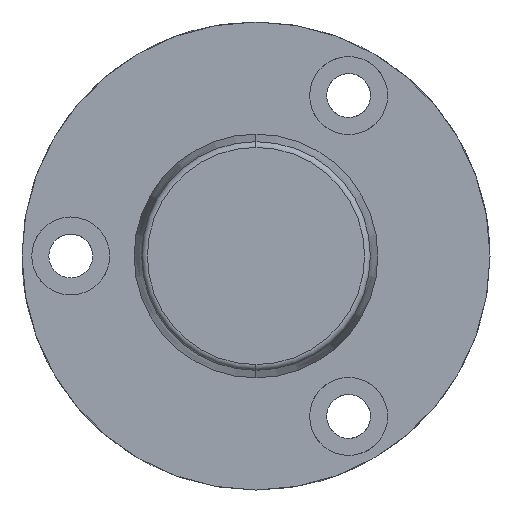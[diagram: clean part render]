
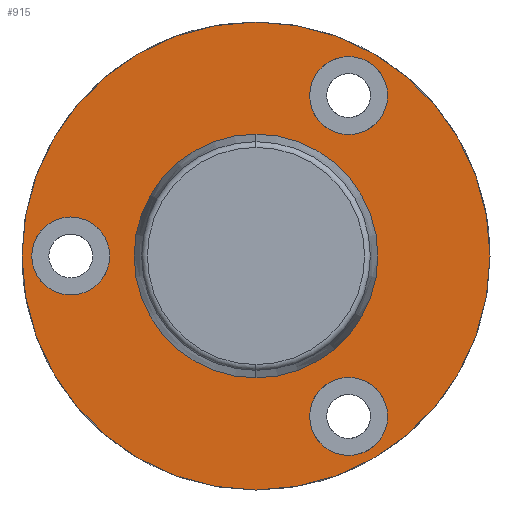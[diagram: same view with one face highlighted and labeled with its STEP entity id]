
A CAD part, left-side view. The second image highlights one B-rep face of the part: STEP entity #915.
In plain terms, the highlighted planar face has unit normal (-1, 0, 0).
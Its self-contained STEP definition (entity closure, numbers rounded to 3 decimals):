
#429=CARTESIAN_POINT('Vertex',(-8.,0.,-24.)) ;
#432=CARTESIAN_POINT('Axis2P3D Location',(-8.,0.,0.)) ;
#436=CARTESIAN_POINT('Vertex',(-8.,24.,0.)) ;
#439=CARTESIAN_POINT('Axis2P3D Location',(-8.,0.,0.)) ;
#443=CARTESIAN_POINT('Vertex',(-8.,0.,24.)) ;
#465=CARTESIAN_POINT('Axis2P3D Location',(-8.,0.,0.)) ;
#469=CARTESIAN_POINT('Vertex',(-8.,-24.,0.)) ;
#472=CARTESIAN_POINT('Axis2P3D Location',(-8.,0.,0.)) ;
#768=CARTESIAN_POINT('Axis2P3D Location',(-8.,11.,0.)) ;
#779=CARTESIAN_POINT('Axis2P3D Location',(-8.,19.,0.)) ;
#783=CARTESIAN_POINT('Vertex',(-8.,19.,4.)) ;
#785=CARTESIAN_POINT('Vertex',(-8.,23.,0.)) ;
#788=CARTESIAN_POINT('Axis2P3D Location',(-8.,19.,0.)) ;
#792=CARTESIAN_POINT('Vertex',(-8.,15.,0.)) ;
#795=CARTESIAN_POINT('Axis2P3D Location',(-8.,19.,0.)) ;
#799=CARTESIAN_POINT('Vertex',(-8.,19.,-4.)) ;
#802=CARTESIAN_POINT('Axis2P3D Location',(-8.,19.,0.)) ;
#813=CARTESIAN_POINT('Axis2P3D Location',(-8.,-9.5,16.454)) ;
#817=CARTESIAN_POINT('Vertex',(-8.,-5.5,16.454)) ;
#819=CARTESIAN_POINT('Vertex',(-8.,-9.5,20.454)) ;
#822=CARTESIAN_POINT('Axis2P3D Location',(-8.,-9.5,16.454)) ;
#826=CARTESIAN_POINT('Vertex',(-8.,-13.5,16.454)) ;
#829=CARTESIAN_POINT('Axis2P3D Location',(-8.,-9.5,16.454)) ;
#833=CARTESIAN_POINT('Vertex',(-8.,-9.5,12.454)) ;
#836=CARTESIAN_POINT('Axis2P3D Location',(-8.,-9.5,16.454)) ;
#847=CARTESIAN_POINT('Axis2P3D Location',(-8.,-9.5,-16.454)) ;
#851=CARTESIAN_POINT('Vertex',(-8.,-5.5,-16.454)) ;
#853=CARTESIAN_POINT('Vertex',(-8.,-9.5,-12.454)) ;
#856=CARTESIAN_POINT('Axis2P3D Location',(-8.,-9.5,-16.454)) ;
#860=CARTESIAN_POINT('Vertex',(-8.,-13.5,-16.454)) ;
#863=CARTESIAN_POINT('Axis2P3D Location',(-8.,-9.5,-16.454)) ;
#867=CARTESIAN_POINT('Vertex',(-8.,-9.5,-20.454)) ;
#870=CARTESIAN_POINT('Axis2P3D Location',(-8.,-9.5,-16.454)) ;
#881=CARTESIAN_POINT('Axis2P3D Location',(-8.,0.,0.)) ;
#885=CARTESIAN_POINT('Vertex',(-8.,11.,0.)) ;
#887=CARTESIAN_POINT('Vertex',(-8.,0.,11.)) ;
#890=CARTESIAN_POINT('Axis2P3D Location',(-8.,0.,0.)) ;
#894=CARTESIAN_POINT('Vertex',(-8.,-11.,0.)) ;
#897=CARTESIAN_POINT('Axis2P3D Location',(-8.,0.,0.)) ;
#901=CARTESIAN_POINT('Vertex',(-8.,0.,-11.)) ;
#904=CARTESIAN_POINT('Axis2P3D Location',(-8.,0.,0.)) ;
#433=DIRECTION('Axis2P3D Direction',(-1.,-0.,-0.)) ;
#440=DIRECTION('Axis2P3D Direction',(-1.,-0.,-0.)) ;
#466=DIRECTION('Axis2P3D Direction',(-1.,-0.,-0.)) ;
#473=DIRECTION('Axis2P3D Direction',(-1.,-0.,-0.)) ;
#769=DIRECTION('Axis2P3D Direction',(1.,0.,-0.)) ;
#770=DIRECTION('Axis2P3D XDirection',(-0.,0.,-1.)) ;
#780=DIRECTION('Axis2P3D Direction',(1.,0.,-0.)) ;
#789=DIRECTION('Axis2P3D Direction',(1.,0.,-0.)) ;
#796=DIRECTION('Axis2P3D Direction',(1.,0.,-0.)) ;
#803=DIRECTION('Axis2P3D Direction',(1.,0.,-0.)) ;
#814=DIRECTION('Axis2P3D Direction',(1.,0.,-0.)) ;
#823=DIRECTION('Axis2P3D Direction',(1.,0.,-0.)) ;
#830=DIRECTION('Axis2P3D Direction',(1.,0.,-0.)) ;
#837=DIRECTION('Axis2P3D Direction',(1.,0.,-0.)) ;
#848=DIRECTION('Axis2P3D Direction',(1.,0.,-0.)) ;
#857=DIRECTION('Axis2P3D Direction',(1.,0.,-0.)) ;
#864=DIRECTION('Axis2P3D Direction',(1.,0.,-0.)) ;
#871=DIRECTION('Axis2P3D Direction',(1.,0.,-0.)) ;
#882=DIRECTION('Axis2P3D Direction',(1.,0.,-0.)) ;
#891=DIRECTION('Axis2P3D Direction',(1.,0.,-0.)) ;
#898=DIRECTION('Axis2P3D Direction',(1.,0.,-0.)) ;
#905=DIRECTION('Axis2P3D Direction',(1.,0.,-0.)) ;
#434=AXIS2_PLACEMENT_3D('Circle Axis2P3D',#432,#433,$) ;
#441=AXIS2_PLACEMENT_3D('Circle Axis2P3D',#439,#440,$) ;
#467=AXIS2_PLACEMENT_3D('Circle Axis2P3D',#465,#466,$) ;
#474=AXIS2_PLACEMENT_3D('Circle Axis2P3D',#472,#473,$) ;
#771=AXIS2_PLACEMENT_3D('Plane Axis2P3D',#768,#769,#770) ;
#781=AXIS2_PLACEMENT_3D('Circle Axis2P3D',#779,#780,$) ;
#790=AXIS2_PLACEMENT_3D('Circle Axis2P3D',#788,#789,$) ;
#797=AXIS2_PLACEMENT_3D('Circle Axis2P3D',#795,#796,$) ;
#804=AXIS2_PLACEMENT_3D('Circle Axis2P3D',#802,#803,$) ;
#815=AXIS2_PLACEMENT_3D('Circle Axis2P3D',#813,#814,$) ;
#824=AXIS2_PLACEMENT_3D('Circle Axis2P3D',#822,#823,$) ;
#831=AXIS2_PLACEMENT_3D('Circle Axis2P3D',#829,#830,$) ;
#838=AXIS2_PLACEMENT_3D('Circle Axis2P3D',#836,#837,$) ;
#849=AXIS2_PLACEMENT_3D('Circle Axis2P3D',#847,#848,$) ;
#858=AXIS2_PLACEMENT_3D('Circle Axis2P3D',#856,#857,$) ;
#865=AXIS2_PLACEMENT_3D('Circle Axis2P3D',#863,#864,$) ;
#872=AXIS2_PLACEMENT_3D('Circle Axis2P3D',#870,#871,$) ;
#883=AXIS2_PLACEMENT_3D('Circle Axis2P3D',#881,#882,$) ;
#892=AXIS2_PLACEMENT_3D('Circle Axis2P3D',#890,#891,$) ;
#899=AXIS2_PLACEMENT_3D('Circle Axis2P3D',#897,#898,$) ;
#906=AXIS2_PLACEMENT_3D('Circle Axis2P3D',#904,#905,$) ;
#774=ORIENTED_EDGE('',*,*,#438,.F.) ;
#775=ORIENTED_EDGE('',*,*,#476,.F.) ;
#776=ORIENTED_EDGE('',*,*,#471,.F.) ;
#777=ORIENTED_EDGE('',*,*,#445,.F.) ;
#808=ORIENTED_EDGE('',*,*,#787,.F.) ;
#809=ORIENTED_EDGE('',*,*,#794,.F.) ;
#810=ORIENTED_EDGE('',*,*,#801,.F.) ;
#811=ORIENTED_EDGE('',*,*,#806,.F.) ;
#842=ORIENTED_EDGE('',*,*,#821,.T.) ;
#843=ORIENTED_EDGE('',*,*,#828,.T.) ;
#844=ORIENTED_EDGE('',*,*,#835,.T.) ;
#845=ORIENTED_EDGE('',*,*,#840,.T.) ;
#876=ORIENTED_EDGE('',*,*,#855,.T.) ;
#877=ORIENTED_EDGE('',*,*,#862,.T.) ;
#878=ORIENTED_EDGE('',*,*,#869,.T.) ;
#879=ORIENTED_EDGE('',*,*,#874,.T.) ;
#910=ORIENTED_EDGE('',*,*,#889,.T.) ;
#911=ORIENTED_EDGE('',*,*,#896,.T.) ;
#912=ORIENTED_EDGE('',*,*,#903,.T.) ;
#913=ORIENTED_EDGE('',*,*,#908,.T.) ;
#812=FACE_BOUND('',#807,.T.) ;
#846=FACE_BOUND('',#841,.T.) ;
#880=FACE_BOUND('',#875,.T.) ;
#914=FACE_BOUND('',#909,.T.) ;
#915=ADVANCED_FACE('721-25x180',(#778,#812,#846,#880,#914),#772,.F.) ;
#435=CIRCLE('generated circle',#434,24.) ;
#442=CIRCLE('generated circle',#441,24.) ;
#468=CIRCLE('generated circle',#467,24.) ;
#475=CIRCLE('generated circle',#474,24.) ;
#782=CIRCLE('generated circle',#781,4.) ;
#791=CIRCLE('generated circle',#790,4.) ;
#798=CIRCLE('generated circle',#797,4.) ;
#805=CIRCLE('generated circle',#804,4.) ;
#816=CIRCLE('generated circle',#815,4.) ;
#825=CIRCLE('generated circle',#824,4.) ;
#832=CIRCLE('generated circle',#831,4.) ;
#839=CIRCLE('generated circle',#838,4.) ;
#850=CIRCLE('generated circle',#849,4.) ;
#859=CIRCLE('generated circle',#858,4.) ;
#866=CIRCLE('generated circle',#865,4.) ;
#873=CIRCLE('generated circle',#872,4.) ;
#884=CIRCLE('generated circle',#883,11.) ;
#893=CIRCLE('generated circle',#892,11.) ;
#900=CIRCLE('generated circle',#899,11.) ;
#907=CIRCLE('generated circle',#906,11.) ;
#438=EDGE_CURVE('',#430,#437,#435,.F.) ;
#445=EDGE_CURVE('',#437,#444,#442,.F.) ;
#471=EDGE_CURVE('',#444,#470,#468,.F.) ;
#476=EDGE_CURVE('',#470,#430,#475,.F.) ;
#787=EDGE_CURVE('',#784,#786,#782,.F.) ;
#794=EDGE_CURVE('',#793,#784,#791,.F.) ;
#801=EDGE_CURVE('',#800,#793,#798,.F.) ;
#806=EDGE_CURVE('',#786,#800,#805,.F.) ;
#821=EDGE_CURVE('',#818,#820,#816,.T.) ;
#828=EDGE_CURVE('',#820,#827,#825,.T.) ;
#835=EDGE_CURVE('',#827,#834,#832,.T.) ;
#840=EDGE_CURVE('',#834,#818,#839,.T.) ;
#855=EDGE_CURVE('',#852,#854,#850,.T.) ;
#862=EDGE_CURVE('',#854,#861,#859,.T.) ;
#869=EDGE_CURVE('',#861,#868,#866,.T.) ;
#874=EDGE_CURVE('',#868,#852,#873,.T.) ;
#889=EDGE_CURVE('',#886,#888,#884,.T.) ;
#896=EDGE_CURVE('',#888,#895,#893,.T.) ;
#903=EDGE_CURVE('',#895,#902,#900,.T.) ;
#908=EDGE_CURVE('',#902,#886,#907,.T.) ;
#773=EDGE_LOOP('',(#774,#775,#776,#777)) ;
#807=EDGE_LOOP('',(#808,#809,#810,#811)) ;
#841=EDGE_LOOP('',(#842,#843,#844,#845)) ;
#875=EDGE_LOOP('',(#876,#877,#878,#879)) ;
#909=EDGE_LOOP('',(#910,#911,#912,#913)) ;
#778=FACE_OUTER_BOUND('',#773,.T.) ;
#772=PLANE('Plane',#771) ;
#430=VERTEX_POINT('',#429) ;
#437=VERTEX_POINT('',#436) ;
#444=VERTEX_POINT('',#443) ;
#470=VERTEX_POINT('',#469) ;
#784=VERTEX_POINT('',#783) ;
#786=VERTEX_POINT('',#785) ;
#793=VERTEX_POINT('',#792) ;
#800=VERTEX_POINT('',#799) ;
#818=VERTEX_POINT('',#817) ;
#820=VERTEX_POINT('',#819) ;
#827=VERTEX_POINT('',#826) ;
#834=VERTEX_POINT('',#833) ;
#852=VERTEX_POINT('',#851) ;
#854=VERTEX_POINT('',#853) ;
#861=VERTEX_POINT('',#860) ;
#868=VERTEX_POINT('',#867) ;
#886=VERTEX_POINT('',#885) ;
#888=VERTEX_POINT('',#887) ;
#895=VERTEX_POINT('',#894) ;
#902=VERTEX_POINT('',#901) ;
